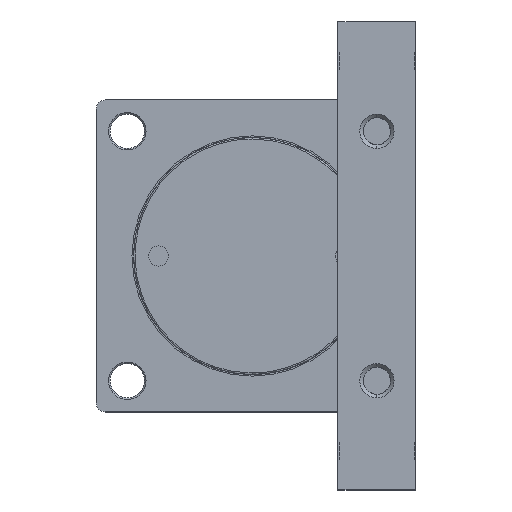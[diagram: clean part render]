
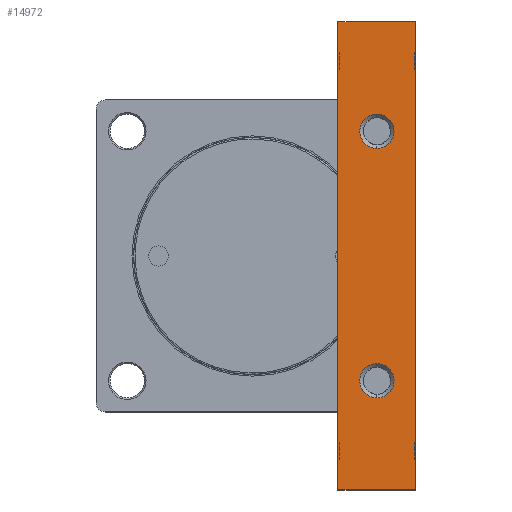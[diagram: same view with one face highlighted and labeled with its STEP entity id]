
A CAD part, left-side view. The second image highlights one B-rep face of the part: STEP entity #14972.
In plain terms, the highlighted planar face has unit normal (1, 0, 0).
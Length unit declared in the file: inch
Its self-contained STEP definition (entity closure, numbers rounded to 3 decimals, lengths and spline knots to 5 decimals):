
#187 = VERTEX_POINT ( 'NONE', #8914 ) ;
#441 = ORIENTED_EDGE ( 'NONE', *, *, #14792, .T. ) ;
#1817 = CIRCLE ( 'NONE', #4034, 0.43307 ) ;
#2263 = EDGE_LOOP ( 'NONE', ( #441, #12612 ) ) ;
#2653 = DIRECTION ( 'NONE',  ( 0., 0., 1. ) ) ;
#2656 = DIRECTION ( 'NONE',  ( -1., 0., 0. ) ) ;
#2673 = CARTESIAN_POINT ( 'NONE',  ( -3.3622, -3.14961, 3.14961 ) ) ;
#2936 = ORIENTED_EDGE ( 'NONE', *, *, #15254, .T. ) ;
#2938 = VECTOR ( 'NONE', #4561, 39.37008 ) ;
#3460 = CIRCLE ( 'NONE', #3722, 0.43307 ) ;
#3629 = AXIS2_PLACEMENT_3D ( 'NONE', #9797, #10346, #9989 ) ;
#3722 = AXIS2_PLACEMENT_3D ( 'NONE', #5431, #5792, #5469 ) ;
#4034 = AXIS2_PLACEMENT_3D ( 'NONE', #4417, #4384, #4368 ) ;
#4176 = VERTEX_POINT ( 'NONE', #7713 ) ;
#4210 = CARTESIAN_POINT ( 'NONE',  ( -3.3622, -3.14961, 2.71654 ) ) ;
#4368 = DIRECTION ( 'NONE',  ( 0., 0., 1. ) ) ;
#4384 = DIRECTION ( 'NONE',  ( -1., 0., 0. ) ) ;
#4417 = CARTESIAN_POINT ( 'NONE',  ( -3.3622, -3.14961, -3.14961 ) ) ;
#4561 = DIRECTION ( 'NONE',  ( 0., 1., 0. ) ) ;
#4680 = CARTESIAN_POINT ( 'NONE',  ( -3.3622, -4.13386, -5.90551 ) ) ;
#5175 = CARTESIAN_POINT ( 'NONE',  ( -3.3622, -2.16535, 5.90551 ) ) ;
#5431 = CARTESIAN_POINT ( 'NONE',  ( -3.3622, -3.14961, 3.14961 ) ) ;
#5469 = DIRECTION ( 'NONE',  ( 0., 0., 1. ) ) ;
#5792 = DIRECTION ( 'NONE',  ( -1., 0., 0. ) ) ;
#5983 = VECTOR ( 'NONE', #6924, 39.37008 ) ;
#6122 = LINE ( 'NONE', #4680, #2938 ) ;
#6194 = LINE ( 'NONE', #8650, #5983 ) ;
#6924 = DIRECTION ( 'NONE',  ( 0., 0., -1. ) ) ;
#7647 = LINE ( 'NONE', #10872, #8044 ) ;
#7713 = CARTESIAN_POINT ( 'NONE',  ( -3.3622, -3.14961, -3.58268 ) ) ;
#7836 = DIRECTION ( 'NONE',  ( 0., 0., 1. ) ) ;
#7839 = DIRECTION ( 'NONE',  ( -1., 0., 0. ) ) ;
#7904 = CARTESIAN_POINT ( 'NONE',  ( -3.3622, -3.14961, -3.14961 ) ) ;
#7967 = CARTESIAN_POINT ( 'NONE',  ( -3.3622, -2.16535, -5.90551 ) ) ;
#8044 = VECTOR ( 'NONE', #10991, 39.37008 ) ;
#8373 = CARTESIAN_POINT ( 'NONE',  ( -3.3622, -4.13386, 5.90551 ) ) ;
#8650 = CARTESIAN_POINT ( 'NONE',  ( -3.3622, -4.13386, 5.90551 ) ) ;
#8914 = CARTESIAN_POINT ( 'NONE',  ( -3.3622, -3.14961, 3.58268 ) ) ;
#8931 = ORIENTED_EDGE ( 'NONE', *, *, #14415, .T. ) ;
#9231 = EDGE_LOOP ( 'NONE', ( #9267, #2936, #14882, #10402 ) ) ;
#9267 = ORIENTED_EDGE ( 'NONE', *, *, #15064, .T. ) ;
#9465 = VERTEX_POINT ( 'NONE', #8373 ) ;
#9797 = CARTESIAN_POINT ( 'NONE',  ( -3.3622, -4.13386, 5.90551 ) ) ;
#9974 = VERTEX_POINT ( 'NONE', #4210 ) ;
#9989 = DIRECTION ( 'NONE',  ( 0., 0., -1. ) ) ;
#10049 = CIRCLE ( 'NONE', #13439, 0.43307 ) ;
#10231 = CIRCLE ( 'NONE', #10679, 0.43307 ) ;
#10346 = DIRECTION ( 'NONE',  ( 1., 0., 0. ) ) ;
#10402 = ORIENTED_EDGE ( 'NONE', *, *, #15472, .T. ) ;
#10679 = AXIS2_PLACEMENT_3D ( 'NONE', #7904, #7839, #7836 ) ;
#10872 = CARTESIAN_POINT ( 'NONE',  ( -3.3622, -4.13386, 5.90551 ) ) ;
#10887 = VERTEX_POINT ( 'NONE', #14452 ) ;
#10991 = DIRECTION ( 'NONE',  ( 0., -1., 0. ) ) ;
#11168 = VERTEX_POINT ( 'NONE', #14595 ) ;
#11623 = VECTOR ( 'NONE', #15456, 39.37008 ) ;
#12363 = LINE ( 'NONE', #15398, #11623 ) ;
#12411 = PLANE ( 'NONE',  #3629 ) ;
#12519 = ORIENTED_EDGE ( 'NONE', *, *, #15493, .T. ) ;
#12612 = ORIENTED_EDGE ( 'NONE', *, *, #15745, .T. ) ;
#13175 = FACE_OUTER_BOUND ( 'NONE', #9231, .T. ) ;
#13338 = VERTEX_POINT ( 'NONE', #5175 ) ;
#13439 = AXIS2_PLACEMENT_3D ( 'NONE', #2673, #2656, #2653 ) ;
#13947 = FACE_BOUND ( 'NONE', #14836, .T. ) ;
#14406 = VERTEX_POINT ( 'NONE', #7967 ) ;
#14415 = EDGE_CURVE ( 'NONE', #10887, #4176, #10231, .T. ) ;
#14452 = CARTESIAN_POINT ( 'NONE',  ( -3.3622, -3.14961, -2.71654 ) ) ;
#14595 = CARTESIAN_POINT ( 'NONE',  ( -3.3622, -4.13386, -5.90551 ) ) ;
#14691 = FACE_BOUND ( 'NONE', #2263, .T. ) ;
#14792 = EDGE_CURVE ( 'NONE', #187, #9974, #10049, .T. ) ;
#14836 = EDGE_LOOP ( 'NONE', ( #8931, #12519 ) ) ;
#14882 = ORIENTED_EDGE ( 'NONE', *, *, #15374, .T. ) ;
#14972 = ADVANCED_FACE ( 'NONE', ( #13175, #14691, #13947 ), #12411, .T. ) ;
#15064 = EDGE_CURVE ( 'NONE', #14406, #13338, #12363, .T. ) ;
#15254 = EDGE_CURVE ( 'NONE', #13338, #9465, #7647, .T. ) ;
#15374 = EDGE_CURVE ( 'NONE', #9465, #11168, #6194, .T. ) ;
#15398 = CARTESIAN_POINT ( 'NONE',  ( -3.3622, -2.16535, 5.90551 ) ) ;
#15456 = DIRECTION ( 'NONE',  ( 0., 0., 1. ) ) ;
#15472 = EDGE_CURVE ( 'NONE', #11168, #14406, #6122, .T. ) ;
#15493 = EDGE_CURVE ( 'NONE', #4176, #10887, #1817, .T. ) ;
#15745 = EDGE_CURVE ( 'NONE', #9974, #187, #3460, .T. ) ;
